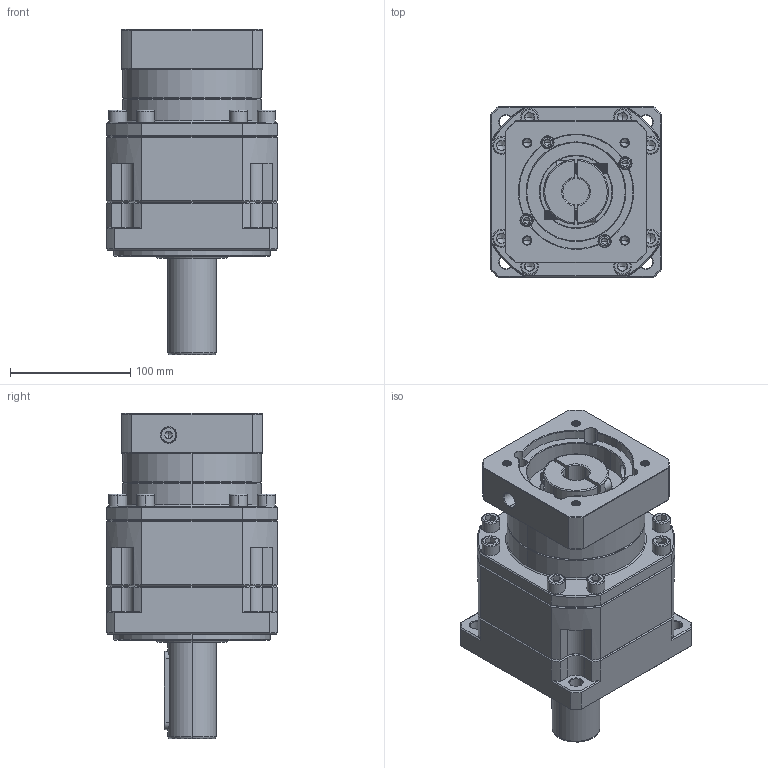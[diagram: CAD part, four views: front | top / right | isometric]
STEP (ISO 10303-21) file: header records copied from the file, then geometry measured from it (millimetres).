
FILE_DESCRIPTION (( 'STEP AP214' ), '1' );
FILE_NAME ('ZB142A-D40-L2-22-95-115-M8.step', '2023-03-18T07:04:36', ( '' ), ( '' ), 'SwSTEP 2.0', 'SolidWorks 2016', '' );
FILE_SCHEMA (( 'AUTOMOTIVE_DESIGN' ));
Length unit declared in the file: millimetre
Products named in the file (1): ZB142A-D40-L2-22-95-115-M8
Bounding box: 142 x 142 x 270.7 mm (x, y, z)
Volume: 2858895.3 mm3; surface area: 232363.4 mm2
Topology: 6 solids, 6 shells, 2280 faces, 5882 edges, 3719 vertices
Faces by surface type: plane 1025, cylinder 497, cone 393, bspline 327, torus 38
Entity records: 120239 total; most frequent: CARTESIAN_POINT 42355, ORIENTED_EDGE 11656, DIRECTION 9865, EDGE_CURVE 5828, VERTEX_POINT 3719, VECTOR 3591, LINE 3591, AXIS2_PLACEMENT_3D 3137
